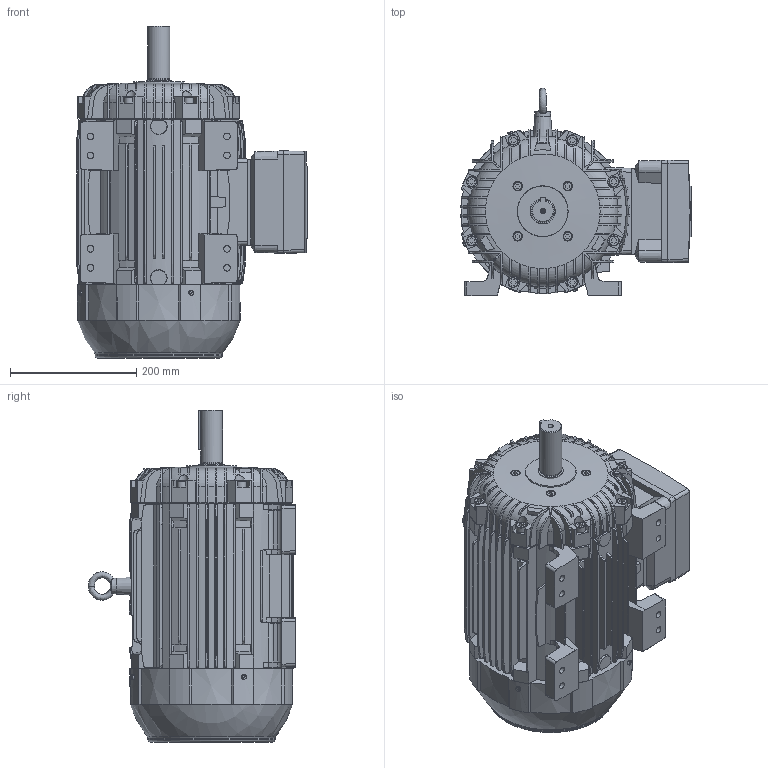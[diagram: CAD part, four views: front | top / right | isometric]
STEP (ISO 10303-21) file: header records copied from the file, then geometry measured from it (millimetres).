
FILE_DESCRIPTION (( 'STEP AP203' ), '1' );
FILE_NAME ('L215T_RIGHT.STEP', '2018-06-20T16:51:45', ( 'Usuário do Windows' ), ( 'WEG Equipamentos Elétricos' ), 'SwSTEP 2.0', 'SolidWorks 2016', '' );
FILE_SCHEMA (( 'CONFIG_CONTROL_DESIGN' ));
Length unit declared in the file: millimetre
Products named in the file (1): L215T_RIGHT
Bounding box: 364.85 x 328.35 x 524.98 mm (x, y, z)
Surface area: 1114715.5 mm2 (no closed solid volume)
Topology: 0 solids, 10 shells, 2715 faces, 6988 edges, 4610 vertices
Faces by surface type: plane 2152, bspline 188, cylinder 178, cone 157, torus 37, sphere 3
Full cylindrical faces by diameter (mm): 4 x1, 7.7 x1, 8 x4, 8.5 x4, 10 x9, 10.41 x8, 13 x8, 15 x8, 16 x8, 34.525 x1, 34.925 x1, 39.95 x1, 201 x1
Entity records: 91626 total; most frequent: CARTESIAN_POINT 29610, ORIENTED_EDGE 13728, DIRECTION 10759, EDGE_CURVE 6864, LINE 4753, VECTOR 4753, VERTEX_POINT 4569, EDGE_LOOP 3133
